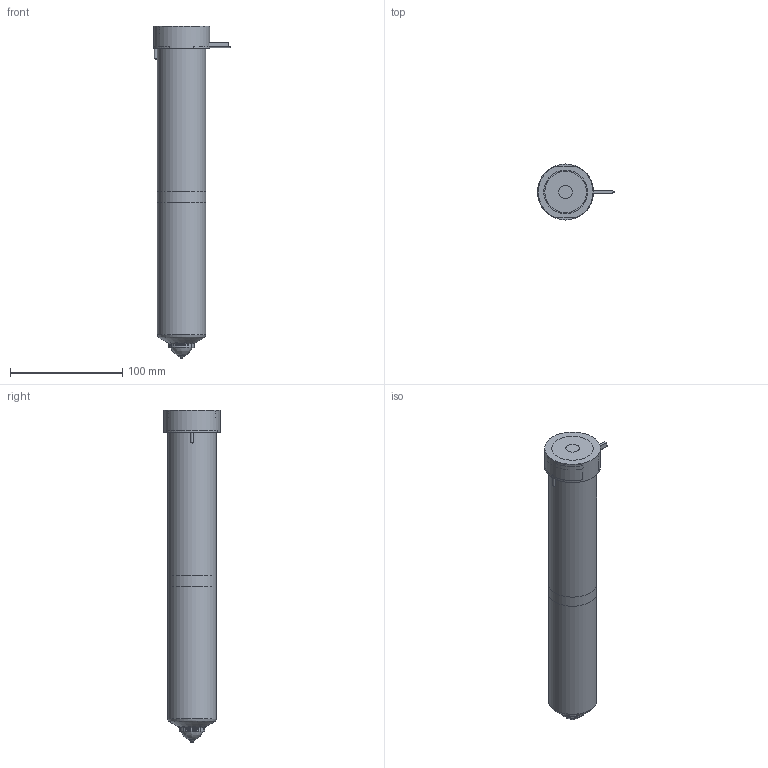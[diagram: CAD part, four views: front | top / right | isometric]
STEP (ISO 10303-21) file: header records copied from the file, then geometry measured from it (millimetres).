
FILE_DESCRIPTION(/* description */ (''),/* implementation_level */ '2;1');
FILE_NAME(/* name */ 'BXOT27275_250C_b',/* time_stamp */ '2007-01-18T08:46:53+13:00',/* author */ (''),/* organization */ (''),/* preprocessor_version */ 'ST-DEVELOPER v9',/* originating_system */ 'UGS - NX 4.0',/* authorisation */ '');
FILE_SCHEMA (('CONFIG_CONTROL_DESIGN'));
Length unit declared in the file: millimetre
Products named in the file (1): BXOT27275_250C_b
Bounding box: 68.6 x 50 x 296.11 mm (x, y, z)
Volume: 766865.3 mm3; surface area: 88012 mm2
Topology: 6 solids, 6 shells, 83 faces, 166 edges, 106 vertices
Faces by surface type: plane 34, cylinder 25, cone 12, torus 9, bspline 3
Full cylindrical faces by diameter (mm): 1 x3, 2 x1, 2.5 x2, 12 x1, 16.8 x1, 17 x1, 22.61 x1, 23.01 x2, 27.5 x1, 38.1 x1, 43 x2, 50 x1
Entity records: 2213 total; most frequent: CARTESIAN_POINT 562, DIRECTION 344, ORIENTED_EDGE 248, AXIS2_PLACEMENT_3D 153, EDGE_LOOP 128, EDGE_CURVE 124, VERTEX_POINT 99, ADVANCED_FACE 83
